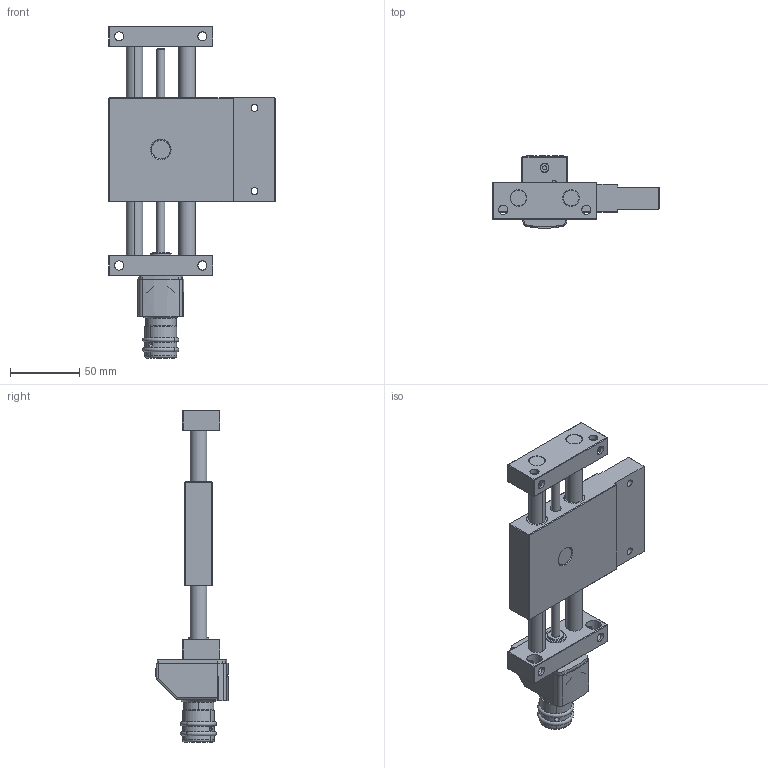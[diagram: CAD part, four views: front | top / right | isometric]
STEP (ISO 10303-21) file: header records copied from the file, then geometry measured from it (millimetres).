
FILE_DESCRIPTION (( 'STEP AP203' ), '1' );
FILE_NAME ('KT7312-KL-PAE-Kreuztisch.STEP', '2016-01-15T17:09:29', ( '' ), ( '' ), 'SwSTEP 2.0', 'SolidWorks 2014', '' );
FILE_SCHEMA (( 'CONFIG_CONTROL_DESIGN' ));
Length unit declared in the file: millimetre
Products named in the file (4): PT7312-000-01-Festteil-PA(E)_n_Standard; PAE0812-DT-000-Elektronischer-Positionsanzeiger-Komplett_n_Standard; KT12-000-02-K-Schlitten-komplett; KT7312-KL-PAE-Kreuztisch
Assembly tree (3 placements, depth 2):
  KT7312-KL-PAE-Kreuztisch
    PT7312-000-01-Festteil-PA(E)_n_Standard
    PAE0812-DT-000-Elektronischer-Positionsanzeiger-Komplett_n_Standard
    KT12-000-02-K-Schlitten-komplett
Bounding box: 120 x 51.97 x 239.13 mm (x, y, z)
Volume: 291310.9 mm3; surface area: 81238.3 mm2
Topology: 3 solids, 8 shells, 852 faces, 2082 edges, 1329 vertices
Faces by surface type: plane 472, cylinder 260, cone 110, torus 6, sphere 4
Entity records: 26361 total; most frequent: CARTESIAN_POINT 5384, DIRECTION 4379, ORIENTED_EDGE 4148, EDGE_CURVE 2074, AXIS2_PLACEMENT_3D 1532, VERTEX_POINT 1329, VECTOR 1315, LINE 1315
